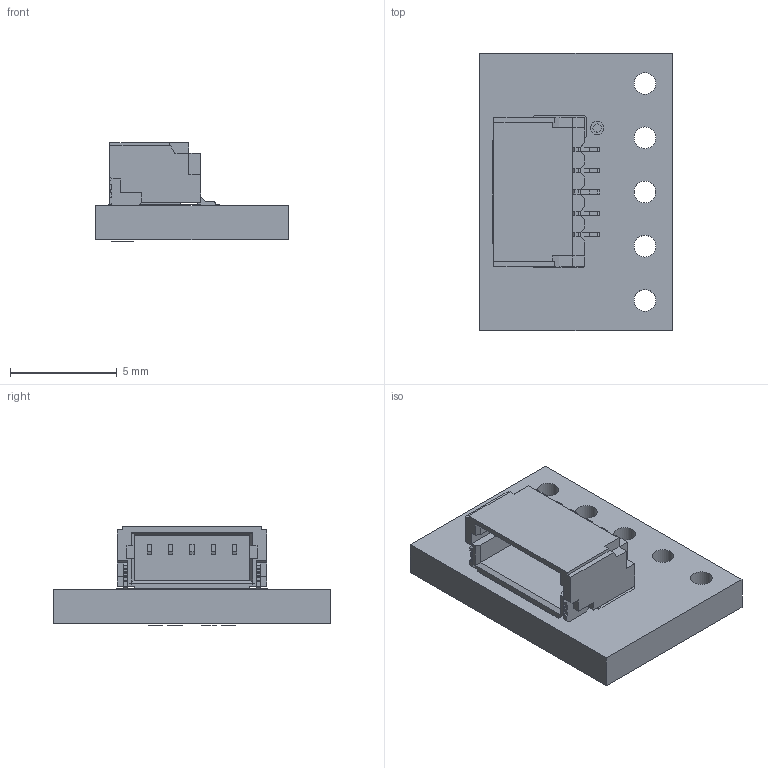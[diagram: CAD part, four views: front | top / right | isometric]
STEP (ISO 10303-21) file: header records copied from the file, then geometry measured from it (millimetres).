
FILE_DESCRIPTION(('FreeCAD Model'),'2;1');
FILE_NAME('Open CASCADE Shape Model','2023-09-27T22:23:17',(''),(''), 'Open CASCADE STEP processor 7.6','FreeCAD','Unknown');
FILE_SCHEMA(('AUTOMOTIVE_DESIGN { 1 0 10303 214 1 1 1 1 }'));
Length unit declared in the file: millimetre
Products named in the file (18): sh-5p-breakout_single; Local_CS_18e7; Board_Geoms_18e7; Pcb_18e7; PCB_Sketch_18e7; botSilks_f8aa; topSilks_f57e; Step_Models_18e7; Top_18e7; CN1_SM05B-SRSS-TB-LFS008_232be0d53d6f; SM05B-SRSS-TB-LFS; SM05B-SRSS-TB-LFS001; SM05B-SRSS-TB-LFS002; SM05B-SRSS-TB-LFS003; SM05B-SRSS-TB-LFS004; SM05B-SRSS-TB-LFS005; SM05B-SRSS-TB-LFS006; SM05B-SRSS-TB-LFS007
Assembly tree (17 placements, depth 5):
  sh-5p-breakout_single
    Local_CS_18e7
    Board_Geoms_18e7
      Pcb_18e7
      PCB_Sketch_18e7
      botSilks_f8aa
      topSilks_f57e
    Step_Models_18e7
      Top_18e7
        CN1_SM05B-SRSS-TB-LFS008_232be0d53d6f
          SM05B-SRSS-TB-LFS
          SM05B-SRSS-TB-LFS001
          SM05B-SRSS-TB-LFS002
          SM05B-SRSS-TB-LFS003
          SM05B-SRSS-TB-LFS004
          SM05B-SRSS-TB-LFS005
          SM05B-SRSS-TB-LFS006
          SM05B-SRSS-TB-LFS007
Bounding box: 9 x 13 x 4.62 mm (x, y, z)
Volume: 226.7 mm3; surface area: 547.2 mm2
Topology: 9 solids, 20 shells, 285 faces, 1304 edges, 1048 vertices
Faces by surface type: plane 229, cylinder 56
Full cylindrical faces by diameter (mm): 1.02 x5
Entity records: 13691 total; most frequent: CARTESIAN_POINT 2655, ORIENTED_EDGE 2070, DIRECTION 2022, EDGE_CURVE 1300, LINE 1192, VECTOR 1192, VERTEX_POINT 1040, AXIS2_PLACEMENT_3D 415
